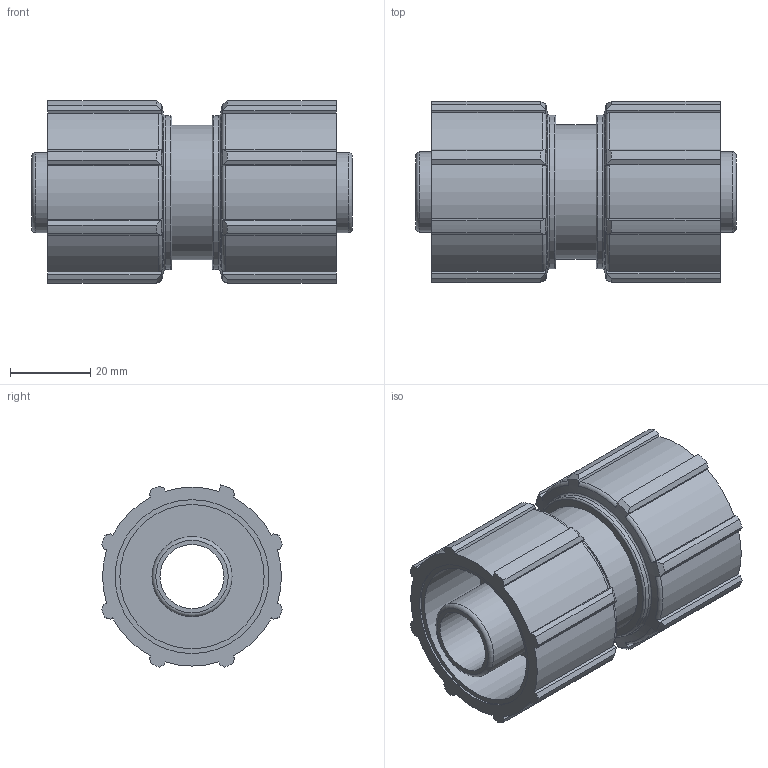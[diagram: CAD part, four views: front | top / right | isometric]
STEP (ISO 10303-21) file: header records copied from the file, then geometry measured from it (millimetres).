
FILE_DESCRIPTION(/* description */ ('PLASSON MODULAR ADAPTOR 20'),/* implementation_level */ '2;1');
FILE_NAME(/* name */ 'C:\Dropbox\KIMPROJECTS-Inventor\99-16-3568-Processing\Mechanical Fittings\07940\079400020__0794060200A.ipt.stp',/* time_stamp */ '2018-07-31T14:20:38+03:00',/* author */ ('KIM'),/* organization */ (''),/* preprocessor_version */ 'ST-DEVELOPER v15.6',/* originating_system */ 'Autodesk Inventor 2015',/* authorisation */ '');
FILE_SCHEMA (('AUTOMOTIVE_DESIGN { 1 0 10303 214 3 1 1 }'));
Length unit declared in the file: millimetre
Products named in the file (1): 079400020__0794060200A
Bounding box: 80 x 45.16 x 45.47 mm (x, y, z)
Volume: 64758.4 mm3; surface area: 26300.7 mm2
Topology: 1 solids, 1 shells, 154 faces, 424 edges, 280 vertices
Faces by surface type: plane 72, cylinder 42, torus 22, cone 18
Full cylindrical faces by diameter (mm): 16 x1, 20 x2, 33.6 x1, 36 x2, 38.4 x4
Entity records: 4850 total; most frequent: CARTESIAN_POINT 983, ORIENTED_EDGE 808, DIRECTION 808, EDGE_CURVE 404, AXIS2_PLACEMENT_3D 309, VERTEX_POINT 278, LINE 190, VECTOR 190
